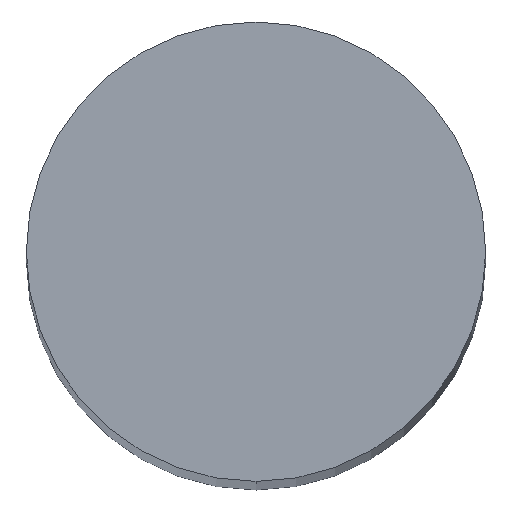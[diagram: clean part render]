
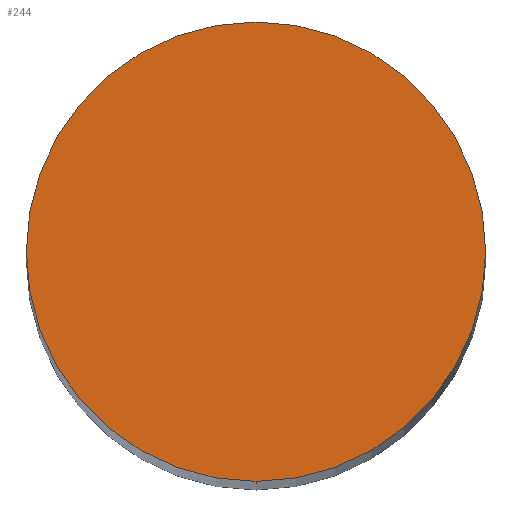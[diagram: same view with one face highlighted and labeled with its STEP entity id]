
A CAD part, top view. The second image highlights one B-rep face of the part: STEP entity #244.
In plain terms, the highlighted planar face has unit normal (0, 0, 1).
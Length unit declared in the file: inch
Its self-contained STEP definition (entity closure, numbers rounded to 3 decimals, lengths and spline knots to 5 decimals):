
#185=CARTESIAN_POINT('',(0.0,-0.07875,1.9685));
#186=VERTEX_POINT('',#185);
#193=CARTESIAN_POINT('',(0.0,0.07875,1.9685));
#194=VERTEX_POINT('',#193);
#195=CARTESIAN_POINT('',(0.0,0.0,1.9685));
#196=DIRECTION('',(0.0,-0.0,-1.0));
#197=DIRECTION('',(0.0,1.0,-0.0));
#198=AXIS2_PLACEMENT_3D('',#195,#196,#197);
#199=CIRCLE('',#198,0.07875);
#200=EDGE_CURVE('no 1609',#186,#194,#199,.T.);
#220=CARTESIAN_POINT('',(0.0,0.0,1.9685));
#221=DIRECTION('',(0.0,-0.0,-1.0));
#222=DIRECTION('',(0.0,1.0,-0.0));
#223=AXIS2_PLACEMENT_3D('',#220,#221,#222);
#224=CIRCLE('',#223,0.07875);
#225=EDGE_CURVE('no 1613',#194,#186,#224,.T.);
#235=ORIENTED_EDGE('',*,*,#200,.F.);
#236=ORIENTED_EDGE('',*,*,#225,.F.);
#237=EDGE_LOOP('',(#235,#236));
#238=FACE_OUTER_BOUND('',#237,.T.);
#239=CARTESIAN_POINT('',(0.07875,0.0,1.9685));
#240=DIRECTION('',(0.0,0.0,1.0));
#241=DIRECTION('',(0.0,-1.0,0.0));
#242=AXIS2_PLACEMENT_3D('',#239,#240,#241);
#243=PLANE('',#242);
#244=ADVANCED_FACE('no 1737',(#238),#243,.T.);
